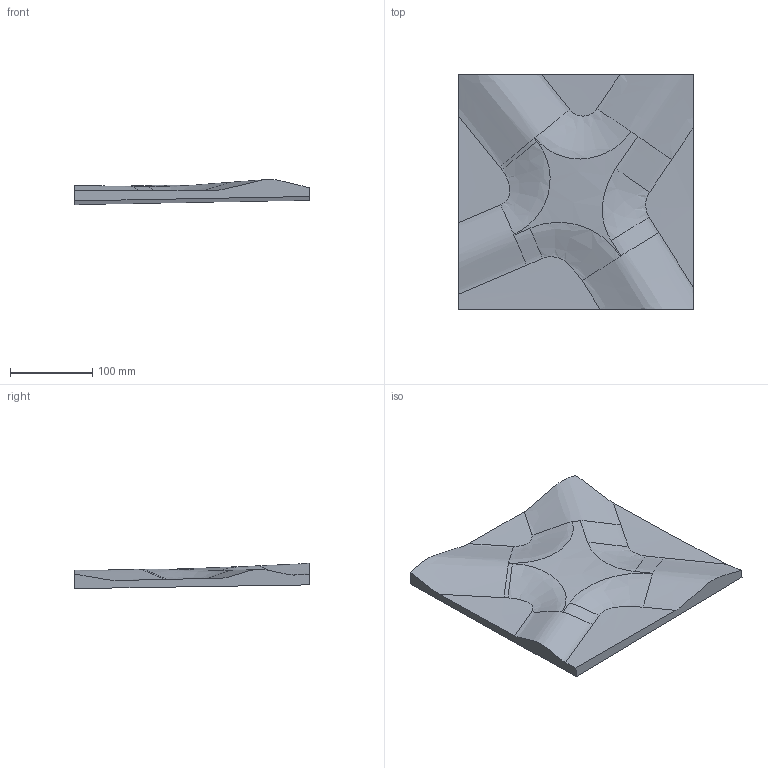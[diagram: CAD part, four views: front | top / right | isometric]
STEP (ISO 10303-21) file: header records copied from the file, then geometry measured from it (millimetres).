
FILE_DESCRIPTION(/* description */ (''),/* implementation_level */ '2;1');
FILE_NAME(/* name */ 'prt_Referenzgeometrie_TAFP_Legesystem_Ausschreibung.step',/* time_stamp */ '2026-04-07T10:36:11+02:00',/* author */ (''),/* organization */ (''),/* preprocessor_version */ 'ST-DEVELOPER v20.1',/* originating_system */ 'Autodesk Translation Framework v14.24.0.0',/* authorisation */ '');
FILE_SCHEMA (('AUTOMOTIVE_DESIGN { 1 0 10303 214 3 1 1 }'));
Length unit declared in the file: millimetre
Products named in the file (1): 20260116_SLDPII_3D_Layup_Geometry_NX_Konstruktion_objects
Bounding box: 285.32 x 285.32 x 30.59 mm (x, y, z)
Volume: 1049464.5 mm3; surface area: 176536.6 mm2
Topology: 1 solids, 1 shells, 22 faces, 61 edges, 41 vertices
Faces by surface type: bspline 17, plane 5
Entity records: 10604 total; most frequent: CARTESIAN_POINT 10147, ORIENTED_EDGE 122, EDGE_CURVE 61, B_SPLINE_CURVE_WITH_KNOTS 51, VERTEX_POINT 41, DIRECTION 24, FACE_OUTER_BOUND 22, EDGE_LOOP 22
